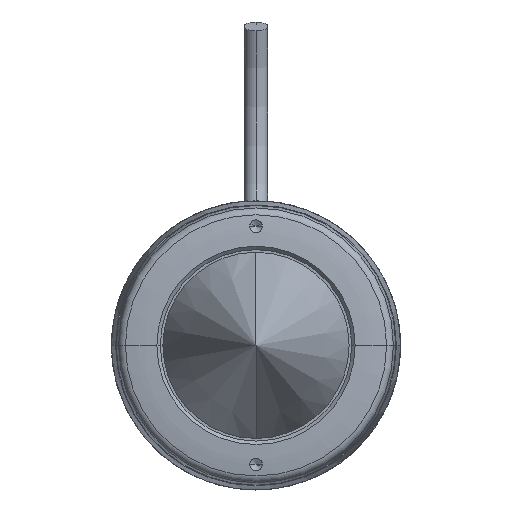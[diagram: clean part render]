
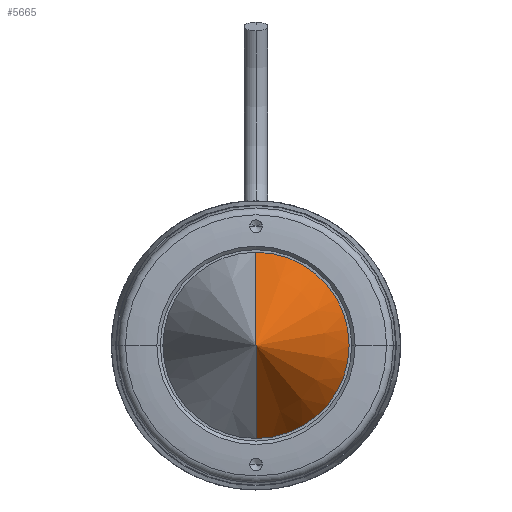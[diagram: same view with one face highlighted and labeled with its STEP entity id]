
A CAD part, front view. The second image highlights one B-rep face of the part: STEP entity #5665.
In plain terms, the highlighted conical face has half-angle 25.452 degrees and reference radius 475.957 mm.
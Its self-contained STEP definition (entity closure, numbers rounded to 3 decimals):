
#101 = VERTEX_POINT ( 'NONE', #2031 ) ;
#150 = VERTEX_POINT ( 'NONE', #2022 ) ;
#235 = ORIENTED_EDGE ( 'NONE', *, *, #1217, .T. ) ;
#334 = ORIENTED_EDGE ( 'NONE', *, *, #1057, .F. ) ;
#358 = ORIENTED_EDGE ( 'NONE', *, *, #1391, .T. ) ;
#434 = VERTEX_POINT ( 'NONE', #5317 ) ;
#569 = LINE ( 'NONE', #4170, #572 ) ;
#572 = VECTOR ( 'NONE', #5292, 1000. ) ;
#627 = EDGE_LOOP ( 'NONE', ( #334, #358, #235 ) ) ;
#675 = VECTOR ( 'NONE', #2252, 1000. ) ;
#825 = LINE ( 'NONE', #2515, #675 ) ;
#912 = CIRCLE ( 'NONE', #1190, 10.947 ) ;
#1057 = EDGE_CURVE ( 'NONE', #101, #150, #569, .T. ) ;
#1190 = AXIS2_PLACEMENT_3D ( 'NONE', #5236, #5237, #5238 ) ;
#1217 = EDGE_CURVE ( 'NONE', #434, #150, #912, .T. ) ;
#1391 = EDGE_CURVE ( 'NONE', #101, #434, #825, .T. ) ;
#1820 = CARTESIAN_POINT ( 'NONE',  ( 0., 976.5, 0. ) ) ;
#1821 = DIRECTION ( 'NONE',  ( 0., 1., 0. ) ) ;
#1829 = DIRECTION ( 'NONE',  ( -0.001, 0., 1. ) ) ;
#2022 = CARTESIAN_POINT ( 'NONE',  ( -0.011, -0.5, 10.947 ) ) ;
#2031 = CARTESIAN_POINT ( 'NONE',  ( 0., -23.5, 0. ) ) ;
#2252 = DIRECTION ( 'NONE',  ( 0., 0.903, -0.43 ) ) ;
#2515 = CARTESIAN_POINT ( 'NONE',  ( 0., -23.5, 0. ) ) ;
#4122 = AXIS2_PLACEMENT_3D ( 'NONE', #1820, #1821, #1829 ) ;
#4170 = CARTESIAN_POINT ( 'NONE',  ( 0., -23.5, 0. ) ) ;
#5236 = CARTESIAN_POINT ( 'NONE',  ( 0., -0.5, 0. ) ) ;
#5237 = DIRECTION ( 'NONE',  ( 0., -1., 0. ) ) ;
#5238 = DIRECTION ( 'NONE',  ( 0.001, 0., -1. ) ) ;
#5292 = DIRECTION ( 'NONE',  ( 0., 0.903, 0.43 ) ) ;
#5317 = CARTESIAN_POINT ( 'NONE',  ( 0.011, -0.5, -10.947 ) ) ;
#5573 = CONICAL_SURFACE ( 'NONE', #4122, 475.957, 0.444 ) ;
#5598 = FACE_OUTER_BOUND ( 'NONE', #627, .T. ) ;
#5665 = ADVANCED_FACE ( 'NONE', ( #5598 ), #5573, .T. ) ;
